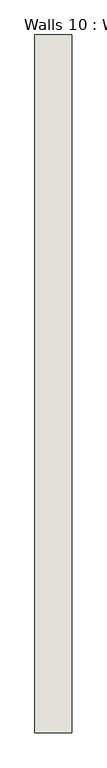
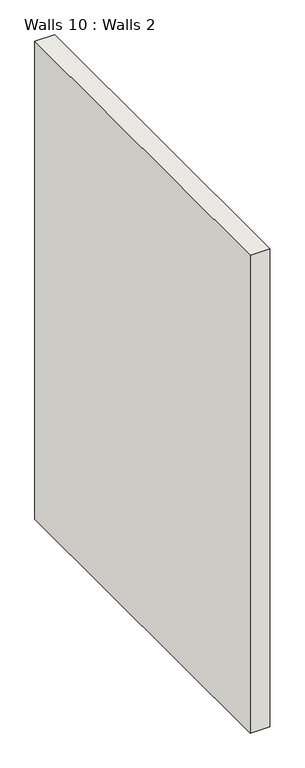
"""IFC4 building model written with IfcOpenShell, lengths in millimetres: wall geometry, Walls 10 : Walls 2."""

from ifc_helpers import new_model, si_unit, frame, origin, place, context, project, spatial, polyline, outline, extrude, source, transform, mapped, element, save


def walls_10_walls_2_f5bd905f(model_context):
    return source(origin(), model_context, "Body", "SweptSolid", [
        extrude(outline(polyline([(9099.8395005, 4661.1500172), (9178.0545945, 4661.1500172), (9178.0545945, 3183.9544085), (9099.8395005, 3183.9544085), (9099.8395005, 4661.1500172)])), frame((0.0, 0.0, 330.1752743), z_axis=(0.0, 0.0, 1.0), x_axis=(1.0, 0.0, 0.0)), (0.0, 0.0, 1.0), 2003.3500121),
    ])


if __name__ == "__main__":
    model = new_model("IFC4")
    model_context = context("Model", 3, world=origin())
    ifc_project = project(units=[si_unit("LENGTHUNIT", "METRE", prefix="MILLI")], contexts=[model_context])
    site = spatial("IfcSite", under=ifc_project)
    building = spatial("IfcBuilding", under=site)
    placement = place(None, origin())
    walls_10_walls_2_shape = walls_10_walls_2_f5bd905f(model_context)
    element("IfcWall", 1, ObjectType="Walls 10 : Walls 2", at=placement, inside=building, context=model_context, shape_type="MappedRepresentation", body=[
        mapped(walls_10_walls_2_shape, transform((0.0, 0.0, 0.0), x_axis=(1.0, 0.0, 0.0), y_axis=(0.0, 1.0, 0.0), z_axis=(0.0, 0.0, 1.0))),
    ])
    save(model, "model.ifc")
